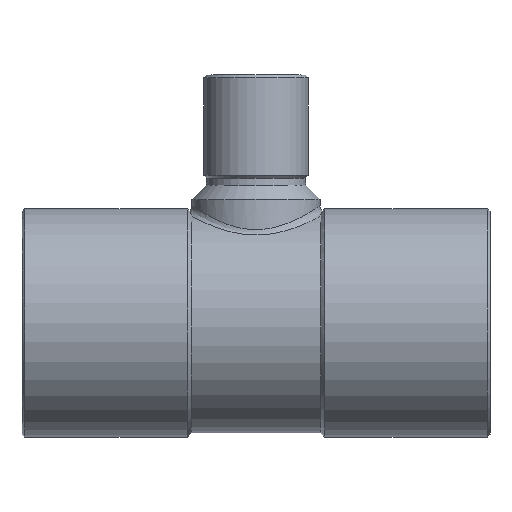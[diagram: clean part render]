
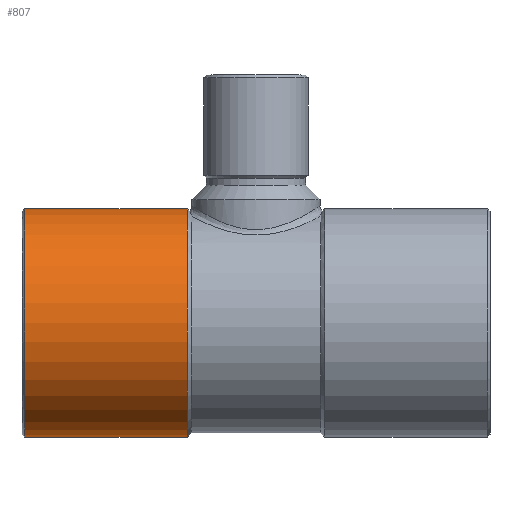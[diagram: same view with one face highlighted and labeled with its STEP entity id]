
A CAD part, top view. The second image highlights one B-rep face of the part: STEP entity #807.
In plain terms, the highlighted cylindrical face has radius 8.3 mm (diameter 16.6 mm), a partial arc.
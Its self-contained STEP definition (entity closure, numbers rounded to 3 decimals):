
#249=CARTESIAN_POINT('',(-5.0,8.3,0.0));
#250=VERTEX_POINT('',#249);
#259=CARTESIAN_POINT('',(-5.0,-8.3,0.));
#260=VERTEX_POINT('',#259);
#261=CARTESIAN_POINT('',(-5.0,0.0,0.0));
#262=DIRECTION('',(1.0,0.0,0.0));
#263=DIRECTION('',(0.0,1.0,0.0));
#264=AXIS2_PLACEMENT_3D('',#261,#262,#263);
#265=CIRCLE('',#264,8.3);
#266=EDGE_CURVE('',#250,#260,#265,.T.);
#776=CARTESIAN_POINT('',(-11.0,0.0,0.0));
#777=DIRECTION('',(1.0,0.0,0.0));
#778=DIRECTION('',(0.0,1.0,0.0));
#779=AXIS2_PLACEMENT_3D('',#776,#777,#778);
#780=CYLINDRICAL_SURFACE('',#779,8.3);
#781=CARTESIAN_POINT('',(-16.8,8.3,0.));
#782=VERTEX_POINT('',#781);
#783=CARTESIAN_POINT('',(-16.8,8.3,0.));
#784=DIRECTION('',(1.0,0.0,0.0));
#785=VECTOR('',#784,11.8);
#786=LINE('',#783,#785);
#787=EDGE_CURVE('',#782,#250,#786,.T.);
#788=ORIENTED_EDGE('',*,*,#787,.F.);
#789=CARTESIAN_POINT('',(-16.8,-8.3,0.));
#790=VERTEX_POINT('',#789);
#791=CARTESIAN_POINT('',(-16.8,0.0,0.0));
#792=DIRECTION('',(-1.0,0.0,0.0));
#793=DIRECTION('',(0.0,-1.0,0.0));
#794=AXIS2_PLACEMENT_3D('',#791,#792,#793);
#795=CIRCLE('',#794,8.3);
#796=EDGE_CURVE('',#790,#782,#795,.T.);
#797=ORIENTED_EDGE('',*,*,#796,.F.);
#798=CARTESIAN_POINT('',(-5.0,-8.3,0.));
#799=DIRECTION('',(-1.0,0.0,0.0));
#800=VECTOR('',#799,11.8);
#801=LINE('',#798,#800);
#802=EDGE_CURVE('',#260,#790,#801,.T.);
#803=ORIENTED_EDGE('',*,*,#802,.F.);
#804=ORIENTED_EDGE('',*,*,#266,.F.);
#805=EDGE_LOOP('',(#788,#797,#803,#804));
#806=FACE_OUTER_BOUND('',#805,.T.);
#807=ADVANCED_FACE('',(#806),#780,.T.);
